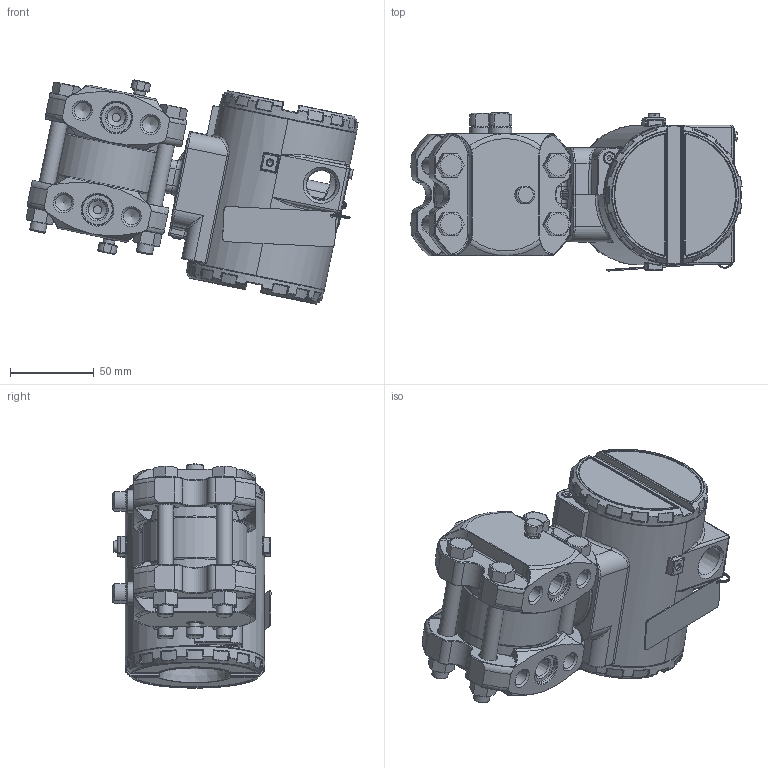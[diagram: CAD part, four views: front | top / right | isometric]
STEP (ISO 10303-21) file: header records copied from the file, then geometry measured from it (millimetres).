
FILE_DESCRIPTION(/* description */ (''),/* implementation_level */ '2;1');
FILE_NAME(/* name */ 'F:\Area\Desenvolvimento_2\Projects\Sensor\projetos\LD30X\montagens 3d - clientes\LD30XH4 1-4NPT Monel purga acima.stp',/* time_stamp */ '2023-01-26T13:18:13-03:00',/* author */ ('inventor02'),/* organization */ (''),/* preprocessor_version */ 'ST-DEVELOPER v17',/* originating_system */ 'Autodesk Inventor 2019',/* authorisation */ '');
FILE_SCHEMA (('CONFIG_CONTROL_DESIGN','AP203_CONFIGURATION_CONTROLLED_3D_DESIGN_OF_MECHANICAL_PARTS_AND_ASSEMBLIES_MIM_LF { 1 0 10303 203 3 1 4 }'));
Products named in the file (29): LD30XH4 1-4NPT Monel purga acima; diferencial FX4 monel purga acima; involucro fx4 apos a usinagem final; bujao 1-4NPT; 081-C-0500-10 monel barra 7-16 purga M8; Paraf. 3-8 x 16 UNC; Porca 3-8 x 16 UNC; Sangria; carcaça vazia com tampas e plaqueta; carcaça LD inox sem letras; Subconjunto plaqueta 300; Plaqueta transmissor; Parafuso da Plaqueta; Rebite da Plaqueta; 096-A-0169-03; 101-A-0502-01; Chapa aterramento externo; ISO 1207 - M4 x 8; DIN 915 - M6 x 10; ANSI B18.3.1M - M4x0,7 x 8; Subconjunto tampa com visor aluminio; tampa pintada; VIDRO DO VISOR; oring 41x1 vidro tampa; Trava do vidro da tampa com visor; trava do vidro VH256; Subconjunto tampa sem visor-aluminio; tampa cega 300 pintada p0; 00034775-0
Assembly tree (39 placements, depth 4):
  LD30XH4 1-4NPT Monel purga acima
    diferencial FX4 monel purga acima
      involucro fx4 apos a usinagem final
      bujao 1-4NPT  x2
      081-C-0500-10 monel barra 7-16 purga M8  x2
      Paraf. 3-8 x 16 UNC  x4
      Porca 3-8 x 16 UNC  x4
      Sangria  x2
    carcaça vazia com tampas e plaqueta
      carcaça LD inox sem letras
      Subconjunto plaqueta 300
        Plaqueta transmissor
        Parafuso da Plaqueta
        Rebite da Plaqueta
        096-A-0169-03
        101-A-0502-01
      Chapa aterramento externo
      ISO 1207 - M4 x 8
      DIN 915 - M6 x 10
      ANSI B18.3.1M - M4x0,7 x 8  x2
      Subconjunto tampa com visor aluminio
        tampa pintada
        VIDRO DO VISOR
        oring 41x1 vidro tampa
        Trava do vidro da tampa com visor
        trava do vidro VH256
        00034775-0
      Subconjunto tampa sem visor-aluminio
        tampa cega 300 pintada p0
        00034775-0
Bounding box: 197.68 x 94.1 x 133.48 mm (x, y, z)
Volume: 638968.2 mm3; surface area: 236757.6 mm2
Topology: 34 solids, 34 shells, 2266 faces, 5509 edges, 3279 vertices
Faces by surface type: bspline 591, cylinder 499, plane 450, torus 350, cone 273, sphere 103
Full cylindrical faces by diameter (mm): 2 x2, 2.1 x2, 2.459 x5, 2.642 x1, 2.7 x1, 3 x5, 3.242 x4, 3.5 x4, 3.571 x1, 4 x4, 4.3 x1, 4.4 x1, 4.917 x1, 5 x4, 5.5 x2, 6 x2, 6.647 x2, 7 x6, 7.087 x2, 7.6 x2, 7.798 x4, 8 x2, 8.7 x2, 9.525 x4, 9.728 x8, 10.5 x8, 10.719 x4, 12 x2, 13.8 x2, 14 x1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
Entity records: 71556 total; most frequent: CARTESIAN_POINT 28032, ORIENTED_EDGE 9116, DIRECTION 8680, EDGE_CURVE 4558, AXIS2_PLACEMENT_3D 3815, VERTEX_POINT 2725, CIRCLE 2255, EDGE_LOOP 2019
